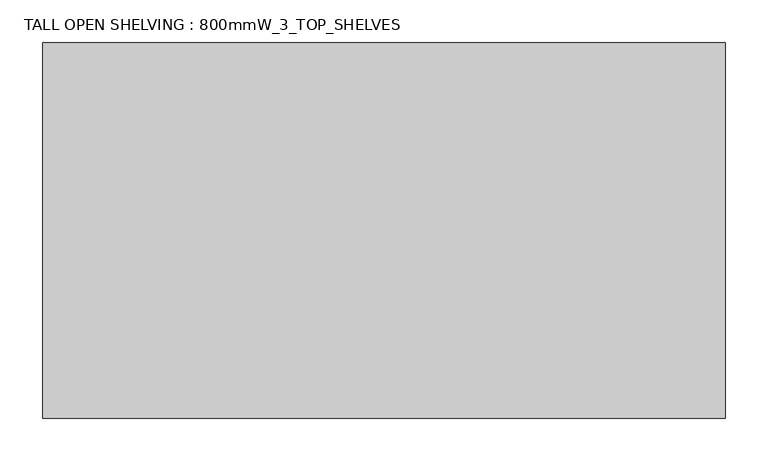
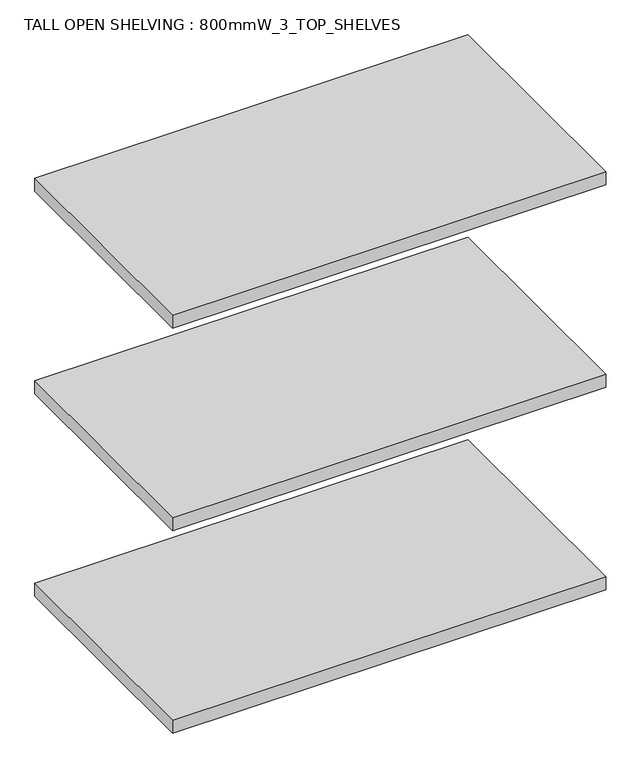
"""IFC4 building model written with IfcOpenShell, lengths in millimetres: furniture geometry, TALL OPEN SHELVING : 800mmW_3_TOP_SHELVES."""

from ifc_helpers import new_model, si_unit, frame, origin, place, context, project, spatial, polyline, outline, extrude, source, transform, mapped, element, save


def tall_open_shelving_800mmw_3_top_shelves_7fe3e4fb(model_context):
    return source(origin(), model_context, "Body", "SweptSolid", [
        extrude(outline(polyline([(400.0, -220.0), (-400.0, -220.0), (-400.0, 220.0), (400.0, 220.0), (400.0, -220.0)])), frame((0.0, 0.0, 783.0), z_axis=(0.0, 0.0, 1.0), x_axis=(1.0, 0.0, 0.0)), (0.0, 0.0, 1.0), 25.0),
        extrude(outline(polyline([(400.0, -220.0), (-400.0, -220.0), (-400.0, 220.0), (400.0, 220.0), (400.0, -220.0)])), frame((0.0, 0.0, 1178.0), z_axis=(0.0, 0.0, 1.0), x_axis=(1.0, 0.0, 0.0)), (0.0, 0.0, 1.0), 25.0),
        extrude(outline(polyline([(400.0, -220.0), (-400.0, -220.0), (-400.0, 220.0), (400.0, 220.0), (400.0, -220.0)])), frame((0.0, 0.0, 1573.0), z_axis=(0.0, 0.0, 1.0), x_axis=(1.0, 0.0, 0.0)), (0.0, 0.0, 1.0), 25.0),
    ])


if __name__ == "__main__":
    model = new_model("IFC4")
    model_context = context("Model", 3, world=origin())
    ifc_project = project(units=[si_unit("LENGTHUNIT", "METRE", prefix="MILLI")], contexts=[model_context])
    site = spatial("IfcSite", under=ifc_project)
    building = spatial("IfcBuilding", under=site)
    placement = place(None, origin())
    tall_open_shelving_800mmw_3_top_shelves_shape = tall_open_shelving_800mmw_3_top_shelves_7fe3e4fb(model_context)
    element("IfcFurniture", 1, ObjectType="TALL OPEN SHELVING : 800mmW_3_TOP_SHELVES", at=placement, inside=building, context=model_context, shape_type="MappedRepresentation", body=[
        mapped(tall_open_shelving_800mmw_3_top_shelves_shape, transform((0.0, 0.0, 0.0), x_axis=(1.0, 0.0, 0.0), y_axis=(0.0, 1.0, 0.0), z_axis=(0.0, 0.0, 1.0))),
    ])
    save(model, "model.ifc")
